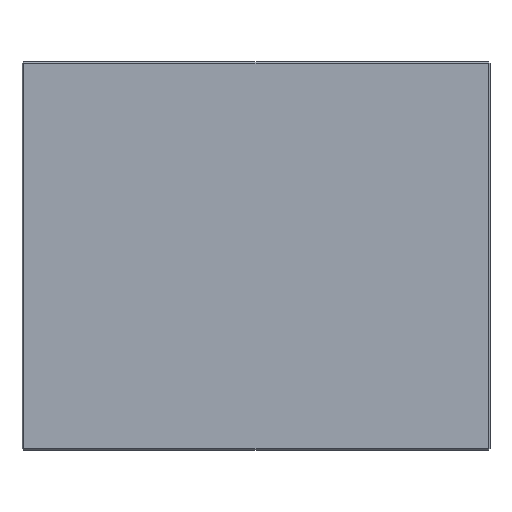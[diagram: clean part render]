
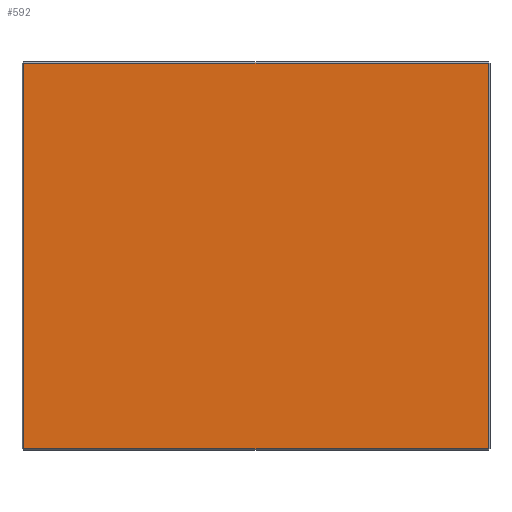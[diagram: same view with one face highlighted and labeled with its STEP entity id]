
A CAD part, front view. The second image highlights one B-rep face of the part: STEP entity #592.
In plain terms, the highlighted planar face has unit normal (0, -1, 0).
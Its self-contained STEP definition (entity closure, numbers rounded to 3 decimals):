
#13 = CARTESIAN_POINT ( 'NONE',  ( -147., 0., -122. ) ) ;
#15 = EDGE_CURVE ( 'NONE', #416, #198, #382, .T. ) ;
#86 = CARTESIAN_POINT ( 'NONE',  ( 147., 0., -122. ) ) ;
#90 = EDGE_CURVE ( 'NONE', #198, #274, #271, .T. ) ;
#105 = EDGE_CURVE ( 'NONE', #224, #416, #305, .T. ) ;
#145 = CARTESIAN_POINT ( 'NONE',  ( 147., 0., 0. ) ) ;
#150 = ORIENTED_EDGE ( 'NONE', *, *, #570, .T. ) ;
#158 = CARTESIAN_POINT ( 'NONE',  ( 0., 0., 122. ) ) ;
#198 = VERTEX_POINT ( 'NONE', #86 ) ;
#224 = VERTEX_POINT ( 'NONE', #248 ) ;
#232 = VECTOR ( 'NONE', #595, 1000. ) ;
#245 = DIRECTION ( 'NONE',  ( 0., 1., 0. ) ) ;
#248 = CARTESIAN_POINT ( 'NONE',  ( -147., 0., 122. ) ) ;
#255 = VECTOR ( 'NONE', #492, 1000. ) ;
#271 = LINE ( 'NONE', #145, #255 ) ;
#274 = VERTEX_POINT ( 'NONE', #328 ) ;
#291 = DIRECTION ( 'NONE',  ( 1., 0., 0. ) ) ;
#296 = EDGE_LOOP ( 'NONE', ( #303, #150, #603, #490 ) ) ;
#303 = ORIENTED_EDGE ( 'NONE', *, *, #90, .T. ) ;
#305 = LINE ( 'NONE', #524, #232 ) ;
#328 = CARTESIAN_POINT ( 'NONE',  ( 147., 0., 122. ) ) ;
#345 = VECTOR ( 'NONE', #291, 1000. ) ;
#365 = DIRECTION ( 'NONE',  ( 0., 0., 1. ) ) ;
#382 = LINE ( 'NONE', #430, #345 ) ;
#416 = VERTEX_POINT ( 'NONE', #13 ) ;
#418 = CARTESIAN_POINT ( 'NONE',  ( 0., 0., 0. ) ) ;
#430 = CARTESIAN_POINT ( 'NONE',  ( 0., 0., -122. ) ) ;
#443 = PLANE ( 'NONE',  #601 ) ;
#452 = FACE_OUTER_BOUND ( 'NONE', #296, .T. ) ;
#490 = ORIENTED_EDGE ( 'NONE', *, *, #15, .T. ) ;
#491 = VECTOR ( 'NONE', #540, 1000. ) ;
#492 = DIRECTION ( 'NONE',  ( 0., 0., 1. ) ) ;
#524 = CARTESIAN_POINT ( 'NONE',  ( -147., 0., 0. ) ) ;
#540 = DIRECTION ( 'NONE',  ( -1., 0., 0. ) ) ;
#570 = EDGE_CURVE ( 'NONE', #274, #224, #594, .T. ) ;
#592 = ADVANCED_FACE ( 'NONE', ( #452 ), #443, .F. ) ;
#594 = LINE ( 'NONE', #158, #491 ) ;
#595 = DIRECTION ( 'NONE',  ( 0., 0., -1. ) ) ;
#601 = AXIS2_PLACEMENT_3D ( 'NONE', #418, #245, #365 ) ;
#603 = ORIENTED_EDGE ( 'NONE', *, *, #105, .T. ) ;
